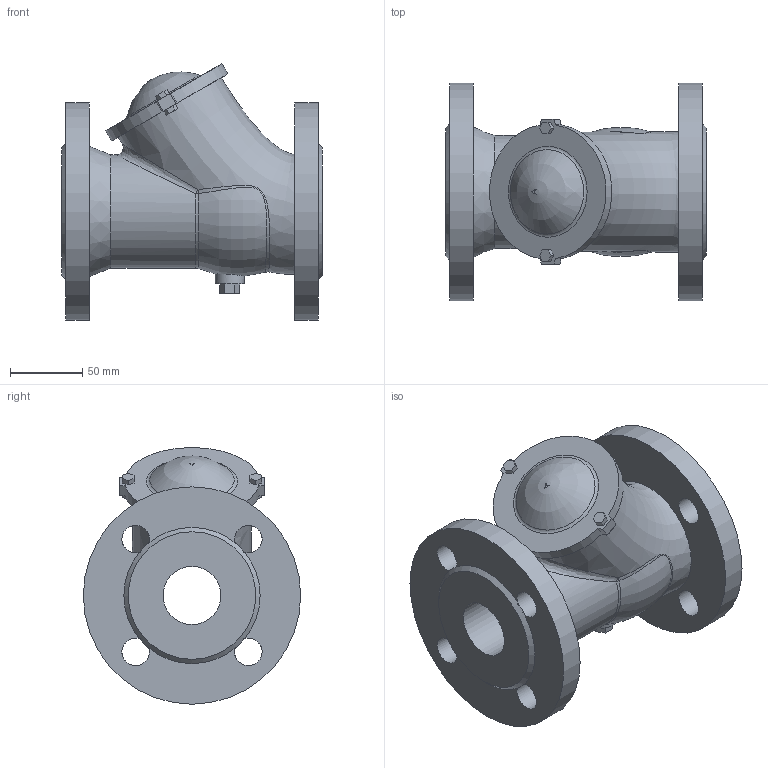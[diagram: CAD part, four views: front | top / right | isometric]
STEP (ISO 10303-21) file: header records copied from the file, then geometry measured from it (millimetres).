
FILE_DESCRIPTION(('STEP AP203'), '1');
FILE_NAME('抔黽鳧 012F.M DN40', '', ('UNSPECIFIED'), ('UNSPECIFIED'), 'ASCON STEP Converter 1.6', 'ASCON Math Kernel', '');
FILE_SCHEMA(('CONFIG_CONTROL_DESIGN'));
Length unit declared in the file: millimetre
Products named in the file (1): Клапан 012F.M DN40
Bounding box: 180 x 150 x 176.92 mm (x, y, z)
Volume: 1417173.1 mm3; surface area: 153898 mm2
Topology: 1 solids, 2 shells, 106 faces, 274 edges, 170 vertices
Faces by surface type: plane 66, cylinder 28, bspline 5, torus 4, cone 3
Full cylindrical faces by diameter (mm): 19 x8, 20 x1, 40 x1, 78 x1, 150 x2
Entity records: 7342 total; most frequent: CARTESIAN_POINT 3976, ORIENTED_EDGE 500, DIRECTION 493, EDGE_CURVE 253, AXIS2_PLACEMENT_3D 185, VERTEX_POINT 168, EDGE_LOOP 148, FACE_BOUND 123
